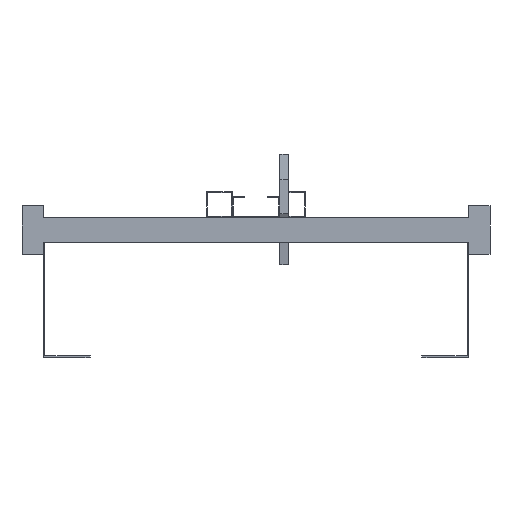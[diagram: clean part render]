
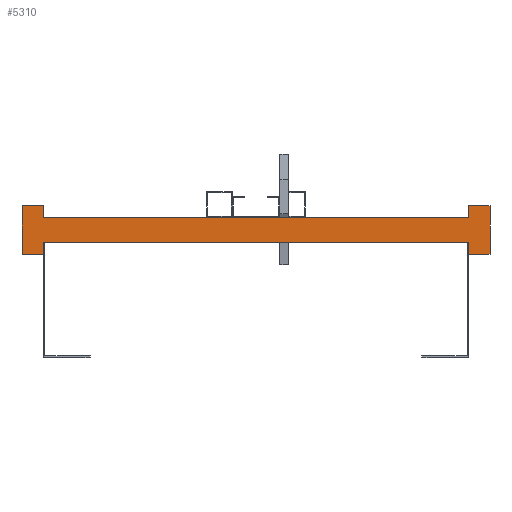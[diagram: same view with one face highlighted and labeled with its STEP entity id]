
A CAD part, front view. The second image highlights one B-rep face of the part: STEP entity #5310.
In plain terms, the highlighted planar face has unit normal (0, -1, 0).
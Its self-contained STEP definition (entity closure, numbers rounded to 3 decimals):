
#1909=DIRECTION('',(0.,0.,1.));
#1910=VECTOR('',#1909,13.5);
#1911=CARTESIAN_POINT('',(250.,0.,-28.5));
#1912=LINE('',#1911,#1910);
#1913=DIRECTION('',(0.,0.,-1.));
#1914=VECTOR('',#1913,13.5);
#1915=CARTESIAN_POINT('',(-250.,0.,-15.));
#1916=LINE('',#1915,#1914);
#1917=DIRECTION('',(-1.,0.,0.));
#1918=VECTOR('',#1917,25.);
#1919=CARTESIAN_POINT('',(-250.,0.,-28.5));
#1920=LINE('',#1919,#1918);
#1921=DIRECTION('',(0.,0.,1.));
#1922=VECTOR('',#1921,57.);
#1923=CARTESIAN_POINT('',(-275.,0.,-28.5));
#1924=LINE('',#1923,#1922);
#1925=DIRECTION('',(1.,0.,0.));
#1926=VECTOR('',#1925,25.);
#1927=CARTESIAN_POINT('',(-275.,0.,28.5));
#1928=LINE('',#1927,#1926);
#1929=DIRECTION('',(0.,0.,-1.));
#1930=VECTOR('',#1929,13.5);
#1931=CARTESIAN_POINT('',(-250.,0.,28.5));
#1932=LINE('',#1931,#1930);
#1933=DIRECTION('',(0.,0.,1.));
#1934=VECTOR('',#1933,13.5);
#1935=CARTESIAN_POINT('',(250.,0.,15.));
#1936=LINE('',#1935,#1934);
#1937=DIRECTION('',(1.,0.,0.));
#1938=VECTOR('',#1937,25.);
#1939=CARTESIAN_POINT('',(250.,0.,28.5));
#1940=LINE('',#1939,#1938);
#1941=DIRECTION('',(0.,0.,-1.));
#1942=VECTOR('',#1941,57.);
#1943=CARTESIAN_POINT('',(275.,0.,28.5));
#1944=LINE('',#1943,#1942);
#1945=DIRECTION('',(-1.,0.,0.));
#1946=VECTOR('',#1945,25.);
#1947=CARTESIAN_POINT('',(275.,0.,-28.5));
#1948=LINE('',#1947,#1946);
#1949=DIRECTION('',(1.,0.,0.));
#1950=VECTOR('',#1949,500.);
#1951=CARTESIAN_POINT('',(-250.,0.,-15.));
#1952=LINE('',#1951,#1950);
#1961=DIRECTION('',(1.,0.,0.));
#1962=VECTOR('',#1961,500.);
#1963=CARTESIAN_POINT('',(-250.,0.,15.));
#1964=LINE('',#1963,#1962);
#2025=CARTESIAN_POINT('',(-275.,0.,28.5));
#2026=CARTESIAN_POINT('',(-250.,0.,28.5));
#2027=VERTEX_POINT('',#2025);
#2028=VERTEX_POINT('',#2026);
#2029=CARTESIAN_POINT('',(-250.,0.,-28.5));
#2030=CARTESIAN_POINT('',(-275.,0.,-28.5));
#2031=VERTEX_POINT('',#2029);
#2032=VERTEX_POINT('',#2030);
#2033=CARTESIAN_POINT('',(275.,0.,28.5));
#2034=CARTESIAN_POINT('',(275.,0.,-28.5));
#2035=VERTEX_POINT('',#2033);
#2036=VERTEX_POINT('',#2034);
#2037=CARTESIAN_POINT('',(250.,0.,-28.5));
#2038=VERTEX_POINT('',#2037);
#2039=CARTESIAN_POINT('',(250.,0.,28.5));
#2040=VERTEX_POINT('',#2039);
#2057=CARTESIAN_POINT('',(-250.,0.,-15.));
#2059=VERTEX_POINT('',#2057);
#2061=CARTESIAN_POINT('',(-250.,0.,15.));
#2063=VERTEX_POINT('',#2061);
#2065=CARTESIAN_POINT('',(250.,0.,-15.));
#2067=VERTEX_POINT('',#2065);
#2069=CARTESIAN_POINT('',(250.,0.,15.));
#2071=VERTEX_POINT('',#2069);
#5285=CARTESIAN_POINT('',(0.,0.,0.));
#5286=DIRECTION('',(0.,1.,0.));
#5287=DIRECTION('',(1.,0.,0.));
#5288=AXIS2_PLACEMENT_3D('',#5285,#5286,#5287);
#5289=PLANE('',#5288);
#5290=ORIENTED_EDGE('',*,*,#3016,.T.);
#5292=ORIENTED_EDGE('',*,*,#5291,.F.);
#5293=ORIENTED_EDGE('',*,*,#2710,.T.);
#5294=ORIENTED_EDGE('',*,*,#4190,.T.);
#5296=ORIENTED_EDGE('',*,*,#5295,.T.);
#5298=ORIENTED_EDGE('',*,*,#5297,.T.);
#5299=ORIENTED_EDGE('',*,*,#2718,.T.);
#5301=ORIENTED_EDGE('',*,*,#5300,.T.);
#5302=ORIENTED_EDGE('',*,*,#3008,.T.);
#5304=ORIENTED_EDGE('',*,*,#5303,.T.);
#5306=ORIENTED_EDGE('',*,*,#5305,.T.);
#5307=ORIENTED_EDGE('',*,*,#4481,.T.);
#5308=EDGE_LOOP('',(#5290,#5292,#5293,#5294,#5296,#5298,#5299,#5301,#5302,#5304,
#5306,#5307));
#5309=FACE_OUTER_BOUND('',#5308,.F.);
#2710=EDGE_CURVE('',#2059,#2031,#1916,.T.);
#2718=EDGE_CURVE('',#2028,#2063,#1932,.T.);
#3008=EDGE_CURVE('',#2071,#2040,#1936,.T.);
#3016=EDGE_CURVE('',#2038,#2067,#1912,.T.);
#4190=EDGE_CURVE('',#2031,#2032,#1920,.T.);
#4481=EDGE_CURVE('',#2036,#2038,#1948,.T.);
#5291=EDGE_CURVE('',#2059,#2067,#1952,.T.);
#5295=EDGE_CURVE('',#2032,#2027,#1924,.T.);
#5297=EDGE_CURVE('',#2027,#2028,#1928,.T.);
#5300=EDGE_CURVE('',#2063,#2071,#1964,.T.);
#5303=EDGE_CURVE('',#2040,#2035,#1940,.T.);
#5305=EDGE_CURVE('',#2035,#2036,#1944,.T.);
#5310=ADVANCED_FACE('',(#5309),#5289,.F.);
